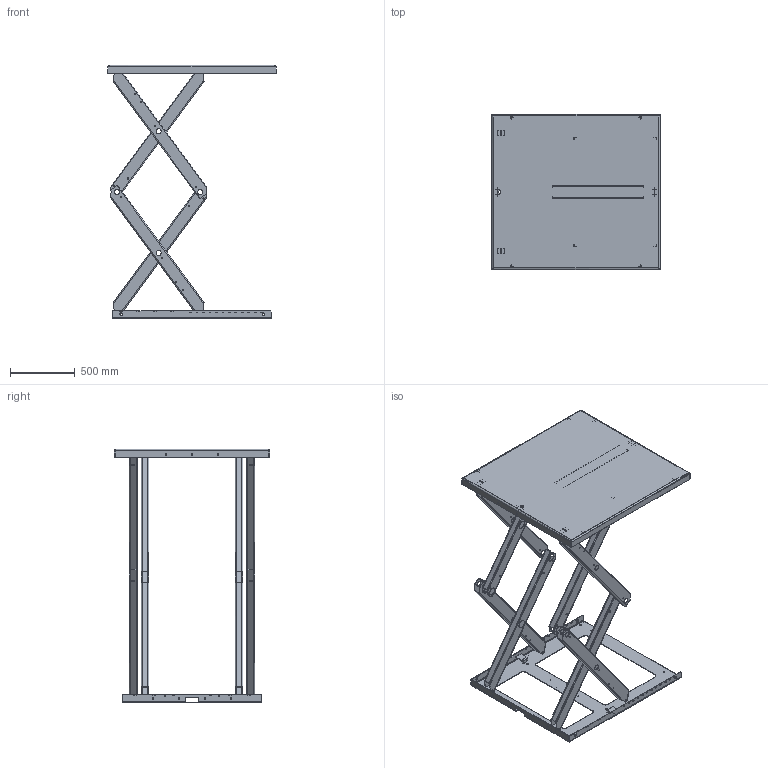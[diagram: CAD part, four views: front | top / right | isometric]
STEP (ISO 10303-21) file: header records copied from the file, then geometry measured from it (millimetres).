
FILE_DESCRIPTION(/* description */ ('TLD 2000XB (1300x1200)'),/* implementation_level */ '2;1');
FILE_NAME(/* name */ '\\EDMOFILE01\Users$\JOHSO\Desktop\524835_Elevated.stp',/* time_stamp */ '2017-10-05T14:10:07+02:00',/* author */ ('johso'),/* organization */ (''),/* preprocessor_version */ 'ST-DEVELOPER v16.5',/* originating_system */ 'Autodesk Inventor 2017',/* authorisation */ '');
FILE_SCHEMA (('AUTOMOTIVE_DESIGN { 1 0 10303 214 3 1 1 }'));
Length unit declared in the file: millimetre
Products named in the file (19): 524835.tmp; 512642; 512642-1; 44870; 512635; 512635-1; 45259; 80131; 41333-710; 612543; 607805; 607804; 607803; 607919; 607835; 33123C; 82148-1195; 607807; 33124
Assembly tree (31 placements, depth 6):
  524835.tmp
    512642
      512642-1
      45259  x2
      44870  x2
    512635
      512635-1
      45259  x2
      80131  x4
      41333-710
    612543
      607805
        607804
          33123C  x2
            82148-1195
        607803
          33124  x2
      607919
        607835
          33123C  x2
            82148-1195
        607807
          33124  x2
Bounding box: 1300 x 1200 x 1960 mm (x, y, z)
Volume: 26394788.4 mm3; surface area: 10965698.4 mm2
Topology: 21 solids, 21 shells, 1233 faces, 3498 edges, 2299 vertices
Faces by surface type: plane 646, cylinder 537, cone 28, bspline 22
Full cylindrical faces by diameter (mm): 5.55 x2, 6.8 x4, 7.4 x24, 8 x4, 10 x24, 10.5 x4, 11.63 x4, 12.5 x6, 13 x8, 14.2 x16, 19 x1, 20 x4, 28.1 x4, 40 x16, 60 x16
Entity records: 25775 total; most frequent: CARTESIAN_POINT 5285, DIRECTION 4122, ORIENTED_EDGE 4098, EDGE_CURVE 2049, LINE 1390, VECTOR 1390, VERTEX_POINT 1369, AXIS2_PLACEMENT_3D 1366
